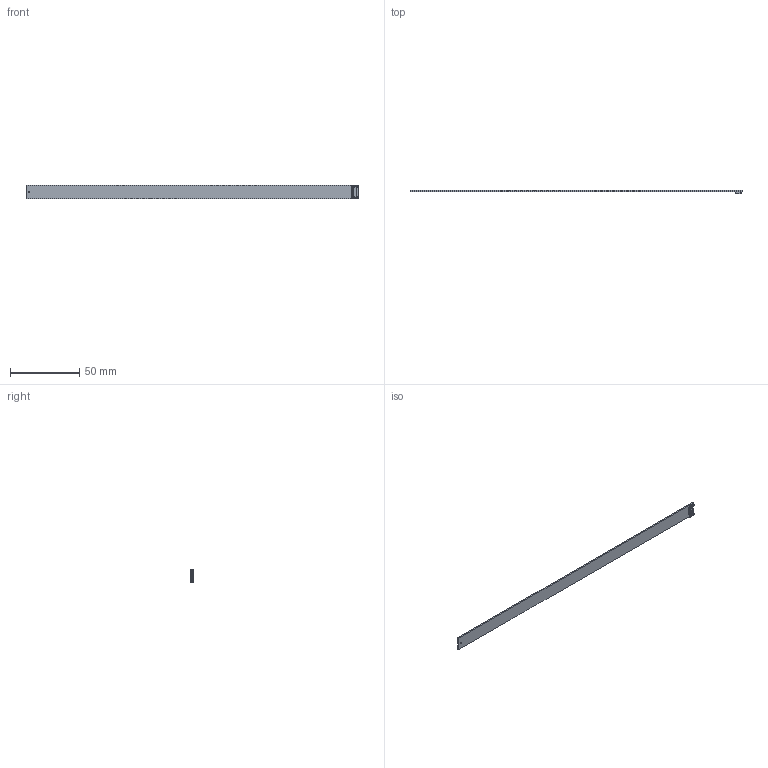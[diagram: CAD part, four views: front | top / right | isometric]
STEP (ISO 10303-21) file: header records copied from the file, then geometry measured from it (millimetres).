
FILE_DESCRIPTION (( 'STEP AP214' ), '1' );
FILE_NAME ('033-2020_0001_(200mm_B12_Linear_Sensor_3D).STEP', '2025-06-02T09:57:20', ( '' ), ( '' ), 'SwSTEP 2.0', 'SolidWorks 2024', '' );
FILE_SCHEMA (( 'AUTOMOTIVE_DESIGN' ));
Length unit declared in the file: millimetre
Products named in the file (3): 010-0178_0001_(200mm_B12_LinearSensorPCB); 033-2020_0001_(200mm_B12_Linear_Sensor_3D); 781715006
Assembly tree (2 placements, depth 2):
  033-2020_0001_(200mm_B12_Linear_Sensor_3D)
    010-0178_0001_(200mm_B12_LinearSensorPCB)
    781715006
Bounding box: 240 x 2.45 x 10 mm (x, y, z)
Volume: 2417.1 mm3; surface area: 5436.9 mm2
Topology: 2 solids, 2 shells, 274 faces, 796 edges, 526 vertices
Faces by surface type: plane 264, cylinder 10
Entity records: 9036 total; most frequent: CARTESIAN_POINT 1601, ORIENTED_EDGE 1592, DIRECTION 1374, EDGE_CURVE 796, LINE 776, VECTOR 776, VERTEX_POINT 526, AXIS2_PLACEMENT_3D 299
